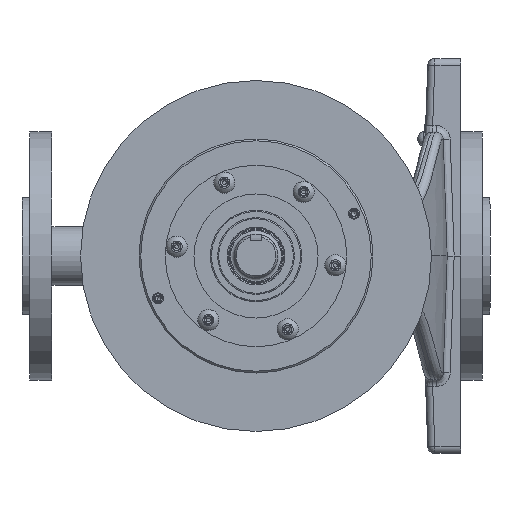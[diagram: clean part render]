
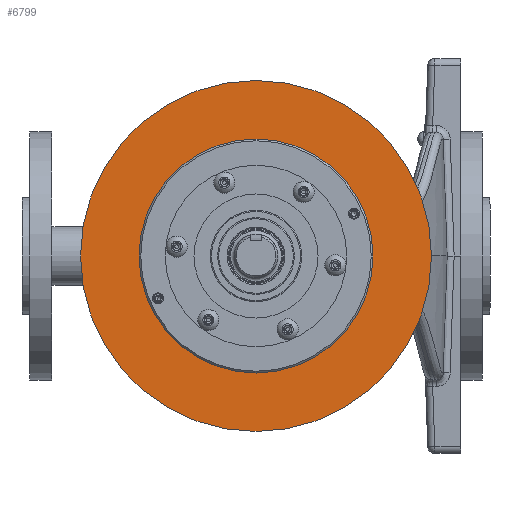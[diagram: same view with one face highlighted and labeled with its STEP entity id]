
A CAD part, left-side view. The second image highlights one B-rep face of the part: STEP entity #6799.
In plain terms, the highlighted planar face has unit normal (-1, 0, 0).
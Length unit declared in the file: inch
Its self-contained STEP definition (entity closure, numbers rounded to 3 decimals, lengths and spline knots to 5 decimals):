
#981 = ORIENTED_EDGE ( 'NONE', *, *, #6416, .T. ) ;
#983 = ORIENTED_EDGE ( 'NONE', *, *, #6440, .F. ) ;
#5876 = CARTESIAN_POINT ( 'NONE',  ( -8.009, 0., -2. ) ) ;
#5884 = CARTESIAN_POINT ( 'NONE',  ( -8.009, -3., 0. ) ) ;
#6189 = VERTEX_POINT ( 'NONE', #5876 ) ;
#6197 = VERTEX_POINT ( 'NONE', #5884 ) ;
#6416 = EDGE_CURVE ( 'NONE', #6189, #6189, #11756, .T. ) ;
#6440 = EDGE_CURVE ( 'NONE', #6197, #6197, #11783, .T. ) ;
#6799 = ADVANCED_FACE ( 'NONE', ( #25887, #25891 ), #25266, .T. ) ;
#7805 = EDGE_LOOP ( 'NONE', ( #983 ) ) ;
#7814 = EDGE_LOOP ( 'NONE', ( #981 ) ) ;
#11756 = CIRCLE ( 'NONE', #12060, 2. ) ;
#11783 = CIRCLE ( 'NONE', #12072, 3. ) ;
#12060 = AXIS2_PLACEMENT_3D ( 'NONE', #15602, #15603, #15604 ) ;
#12072 = AXIS2_PLACEMENT_3D ( 'NONE', #15703, #15704, #15705 ) ;
#15602 = CARTESIAN_POINT ( 'NONE',  ( -8.009, 0., 0. ) ) ;
#15603 = DIRECTION ( 'NONE',  ( 1., 0., 0. ) ) ;
#15604 = DIRECTION ( 'NONE',  ( 0., 0., -1. ) ) ;
#15703 = CARTESIAN_POINT ( 'NONE',  ( -8.009, 0., 0. ) ) ;
#15704 = DIRECTION ( 'NONE',  ( 1., 0., 0. ) ) ;
#15705 = DIRECTION ( 'NONE',  ( 0., -1., 0. ) ) ;
#25266 = PLANE ( 'NONE',  #27381 ) ;
#25274 = CARTESIAN_POINT ( 'NONE',  ( -8.009, 0., 0. ) ) ;
#25275 = DIRECTION ( 'NONE',  ( -1., 0., 0. ) ) ;
#25276 = DIRECTION ( 'NONE',  ( 0., 0., 1. ) ) ;
#25887 = FACE_BOUND ( 'NONE', #7814, .T. ) ;
#25891 = FACE_OUTER_BOUND ( 'NONE', #7805, .T. ) ;
#27381 = AXIS2_PLACEMENT_3D ( 'NONE', #25274, #25275, #25276 ) ;
